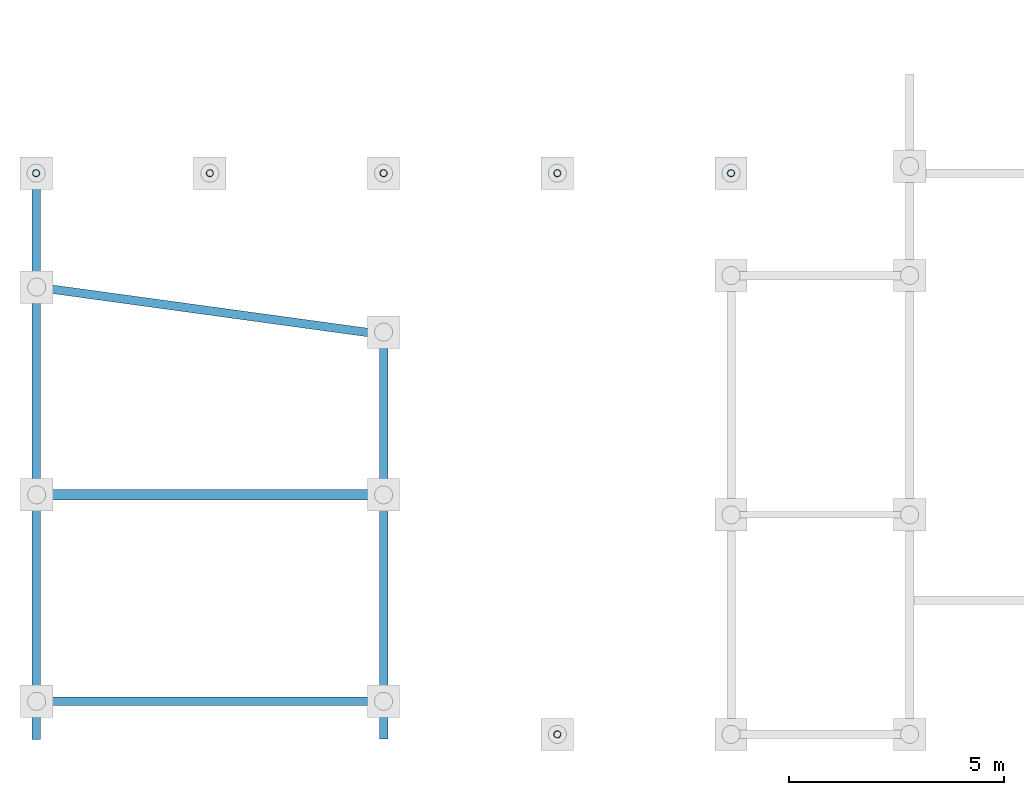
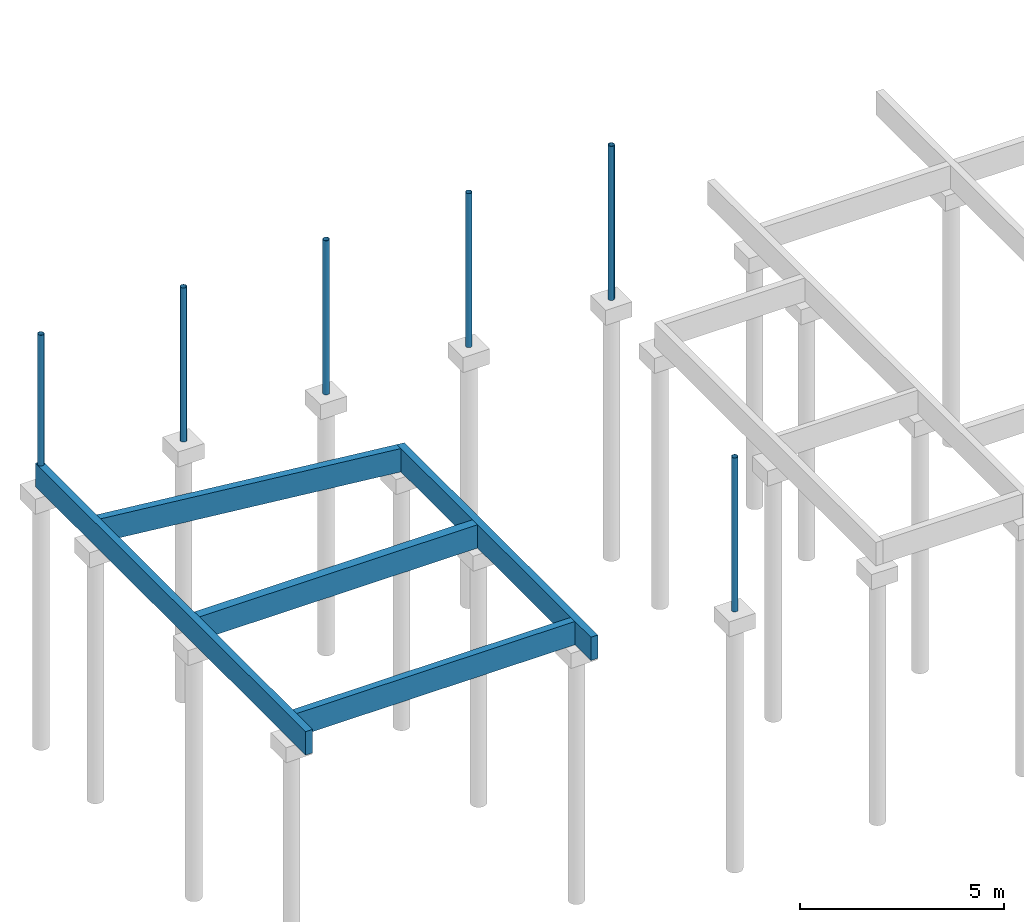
# One storey, part 1 of 3: 6 columns, 5 beams.
"""IFC2X3 building model written with IfcOpenShell, lengths in metres."""

from ifc_helpers import new_model, entity, si_unit, converted_unit, derived_unit, direction, frame, frame_2d, origin, origin_2d_with_axis, place, context, subcontext, project, spatial, rectangle, hollow_circle, extrude, clip, halfspace, source, transform, mapped, material, type_object, type_shapes, element, save


model = new_model("IFC2X3")

# Units and contexts
model_context = context("Model", 3, precision=1e-05, world=origin(), true_north=direction((6.12303176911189e-17, 1.0)))
body_context = subcontext(model_context, "Body", "Model", "MODEL_VIEW")
ifc_project = project(units=[si_unit("LENGTHUNIT", "METRE"), si_unit("AREAUNIT", "SQUARE_METRE"), si_unit("VOLUMEUNIT", "CUBIC_METRE"), converted_unit("PLANEANGLEUNIT", "DEGREE", entity("IfcRatioMeasure", 0.0174532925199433), si_unit("PLANEANGLEUNIT", "RADIAN"), dimensions=[0, 0, 0, 0, 0, 0, 0]), si_unit("MASSUNIT", "GRAM", prefix="KILO"), si_unit("TIMEUNIT", "SECOND"), si_unit("FREQUENCYUNIT", "HERTZ"), si_unit("THERMODYNAMICTEMPERATUREUNIT", "DEGREE_CELSIUS"), derived_unit("THERMALTRANSMITTANCEUNIT", [(si_unit("MASSUNIT", "GRAM", prefix="KILO"), 1), (si_unit("THERMODYNAMICTEMPERATUREUNIT", "KELVIN"), -1), (si_unit("TIMEUNIT", "SECOND"), -3)]), derived_unit("VOLUMETRICFLOWRATEUNIT", [(si_unit("LENGTHUNIT", "METRE"), 3), (si_unit("TIMEUNIT", "SECOND"), -1)]), si_unit("ELECTRICCURRENTUNIT", "AMPERE"), si_unit("ELECTRICVOLTAGEUNIT", "VOLT"), si_unit("POWERUNIT", "WATT"), si_unit("FORCEUNIT", "NEWTON", prefix="KILO"), si_unit("ILLUMINANCEUNIT", "LUX"), si_unit("LUMINOUSFLUXUNIT", "LUMEN"), si_unit("LUMINOUSINTENSITYUNIT", "CANDELA"), derived_unit("USERDEFINED", [(si_unit("MASSUNIT", "GRAM", prefix="KILO"), -1), (si_unit("LENGTHUNIT", "METRE"), -2), (si_unit("TIMEUNIT", "SECOND"), 3), (si_unit("LUMINOUSFLUXUNIT", "LUMEN"), 1)]), derived_unit("LINEARVELOCITYUNIT", [(si_unit("LENGTHUNIT", "METRE"), 1), (si_unit("TIMEUNIT", "SECOND"), -1)]), si_unit("PRESSUREUNIT", "PASCAL"), derived_unit("USERDEFINED", [(si_unit("LENGTHUNIT", "METRE"), -2), (si_unit("MASSUNIT", "GRAM", prefix="KILO"), 1), (si_unit("TIMEUNIT", "SECOND"), -2)])], contexts=[model_context])

# Site, building, storey
site_placement = place(None, origin())
site = spatial("IfcSite", under=ifc_project, at=site_placement, Name="Default", CompositionType="ELEMENT")
building_placement = place(site_placement, origin())
building = spatial("IfcBuilding", under=site, at=building_placement, CompositionType="ELEMENT")
storey_placement = place(building_placement, frame((0.0, 0.0, -0.77)))
storey = spatial("IfcBuildingStorey", under=building, at=storey_placement, Name="Fondation", CompositionType="ELEMENT", Elevation=-0.77)

# Columns
ifc_material_1 = material(Name="Acier structurel - S235")
column_type_1 = type_object("IfcColumnType", Name="RO168.3x8", PredefinedType="COLUMN", material=ifc_material_1)
shared_shape_1 = source(origin(), body_context, "Body", "SweptSolid", [
    extrude(hollow_circle(Radius=0.0841499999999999, WallThickness=0.00799999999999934, at=origin_2d_with_axis()), frame((0.0857375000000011, 0.0844590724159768, 0.0)), (0.0, 0.0, 1.0), 3.9133675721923),
])
type_shapes(column_type_1, [shared_shape_1])
column_1_placement = place(storey_placement, frame((-22.2712529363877, 9.44079089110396, 0.7)))
element("IfcColumn", 1, at=column_1_placement, inside=storey, type_object=column_type_1, material=ifc_material_1, Name="Poteau RO (EN 10219-2):RO168.3x8", ObjectType="RO168.3x8", context=body_context, shape_type="MappedRepresentation", body=[
    mapped(shared_shape_1, transform((0.0, 0.0, 0.0), scale=1.0)),
])
column_type_2 = type_object("IfcColumnType", Name="RO168.3x8", PredefinedType="COLUMN", material=ifc_material_1)
shared_shape_2 = source(origin(), body_context, "Body", "SweptSolid", [
    extrude(hollow_circle(Radius=0.0841499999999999, WallThickness=0.00799999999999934, at=origin_2d_with_axis()), frame((0.0857375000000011, 0.0844590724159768, 0.0)), (0.0, 0.0, 1.0), 4.6133675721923),
])
type_shapes(column_type_2, [shared_shape_2])
column_2_placement = place(storey_placement, frame((-18.2312529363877, 9.44079089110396, 0.0)))
element("IfcColumn", 2, at=column_2_placement, inside=storey, type_object=column_type_2, material=ifc_material_1, Name="Poteau RO (EN 10219-2):RO168.3x8", ObjectType="RO168.3x8", context=body_context, shape_type="MappedRepresentation", body=[
    mapped(shared_shape_2, transform((0.0, 0.0, 0.0), scale=1.0)),
])
column_type_3 = type_object("IfcColumnType", Name="RO168.3x8", PredefinedType="COLUMN", material=ifc_material_1)
shared_shape_3 = source(origin(), body_context, "Body", "SweptSolid", [
    extrude(hollow_circle(Radius=0.0841499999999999, WallThickness=0.00799999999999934, at=origin_2d_with_axis()), frame((0.0857375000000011, 0.0844590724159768, 0.0)), (0.0, 0.0, 1.0), 4.6133675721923),
])
type_shapes(column_type_3, [shared_shape_3])
column_3_placement = place(storey_placement, frame((-14.1912529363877, 9.44079089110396, 0.0)))
element("IfcColumn", 3, at=column_3_placement, inside=storey, type_object=column_type_3, material=ifc_material_1, Name="Poteau RO (EN 10219-2):RO168.3x8", ObjectType="RO168.3x8", context=body_context, shape_type="MappedRepresentation", body=[
    mapped(shared_shape_3, transform((0.0, 0.0, 0.0), scale=1.0)),
])
column_type_4 = type_object("IfcColumnType", Name="RO168.3x8", PredefinedType="COLUMN", material=ifc_material_1)
shared_shape_4 = source(origin(), body_context, "Body", "SweptSolid", [
    extrude(hollow_circle(Radius=0.0841499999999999, WallThickness=0.00799999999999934, at=origin_2d_with_axis()), frame((0.0857375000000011, 0.0844590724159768, 0.0)), (0.0, 0.0, 1.0), 4.6133675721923),
])
type_shapes(column_type_4, [shared_shape_4])
column_4_placement = place(storey_placement, frame((-10.1512529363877, 9.44079089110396, 0.0)))
element("IfcColumn", 4, at=column_4_placement, inside=storey, type_object=column_type_4, material=ifc_material_1, Name="Poteau RO (EN 10219-2):RO168.3x8", ObjectType="RO168.3x8", context=body_context, shape_type="MappedRepresentation", body=[
    mapped(shared_shape_4, transform((0.0, 0.0, 0.0), scale=1.0)),
])
column_type_5 = type_object("IfcColumnType", Name="RO168.3x8", PredefinedType="COLUMN", material=ifc_material_1)
shared_shape_5 = source(origin(), body_context, "Body", "SweptSolid", [
    extrude(hollow_circle(Radius=0.0841499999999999, WallThickness=0.00799999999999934, at=origin_2d_with_axis()), frame((0.0857375, 0.0844590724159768, 0.0)), (0.0, 0.0, 1.0), 4.6133675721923),
])
type_shapes(column_type_5, [shared_shape_5])
column_5_placement = place(storey_placement, frame((-6.11125293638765, 9.44079089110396, 0.0)))
element("IfcColumn", 5, at=column_5_placement, inside=storey, type_object=column_type_5, material=ifc_material_1, Name="Poteau RO (EN 10219-2):RO168.3x8", ObjectType="RO168.3x8", context=body_context, shape_type="MappedRepresentation", body=[
    mapped(shared_shape_5, transform((0.0, 0.0, 0.0), scale=1.0)),
])
column_type_6 = type_object("IfcColumnType", Name="RO168.3x8", PredefinedType="COLUMN", material=ifc_material_1)
shared_shape_6 = source(origin(), body_context, "Body", "SweptSolid", [
    extrude(hollow_circle(Radius=0.0841499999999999, WallThickness=0.00799999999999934, at=frame_2d((0.0, -5.41433564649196e-16), x_axis=(1.0, 0.0))), frame((0.0857375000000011, 0.0844590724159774, 0.0)), (0.0, 0.0, 1.0), 4.60651648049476),
])
type_shapes(column_type_6, [shared_shape_6])
column_6_placement = place(storey_placement, frame((-10.1512529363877, -3.60920935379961, 0.0)))
element("IfcColumn", 6, at=column_6_placement, inside=storey, type_object=column_type_6, material=ifc_material_1, Name="Poteau RO (EN 10219-2):RO168.3x8", ObjectType="RO168.3x8", context=body_context, shape_type="MappedRepresentation", body=[
    mapped(shared_shape_6, transform((0.0, 0.0, 0.0), scale=1.0)),
])

# Beams
ifc_material_2 = material(Name="Béton - Béton coulé sur place")
beam_1_placement = place(storey_placement, frame((-22.1855154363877, -3.62475031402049, 0.0), z_axis=(0.0, 0.0, 1.0), x_axis=(0.0, 1.0, 0.0)))
element("IfcBeam", 7, at=beam_1_placement, inside=storey, material=ifc_material_2, Name="Poutre rectangulaire - Béton:Longrine 0.20 x 0.7", ObjectType="Poutre rectangulaire - Béton:Longrine 0.20 x 0.7", context=body_context, shape_type="SweptSolid", body=[
    extrude(rectangle(XDim=0.7, YDim=0.199999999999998, at=origin_2d_with_axis()), frame((-0.0127000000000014, 0.0, 0.349999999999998), z_axis=(1.0, 0.0, 0.0), x_axis=(0.0, 0.0, -1.0)), (0.0, 0.0, 1.0), 13.2654),
])
beam_2_placement = place(storey_placement, frame((-14.1055154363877, 5.77117100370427, 0.0), z_axis=(0.0, 0.0, 1.0), x_axis=(0.0, -1.0, 0.0)))
element("IfcBeam", 8, at=beam_2_placement, inside=storey, material=ifc_material_2, Name="Poutre rectangulaire - Béton:Longrine 0.20 x 0.7", ObjectType="Poutre rectangulaire - Béton:Longrine 0.20 x 0.7", context=body_context, shape_type="Clipping", body=[
    clip(extrude(rectangle(XDim=0.7, YDim=0.2, at=frame_2d((0.0, -1.08246744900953e-15), x_axis=(1.0, 0.0))), frame((-0.114632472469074, 0.0, 0.349999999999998), z_axis=(1.0, 0.0, 0.0), x_axis=(0.0, 0.0, -1.0)), (0.0, 0.0, 1.0), 9.52279313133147), halfspace(frame((-0.117894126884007, -0.123810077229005, 0.699999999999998), z_axis=(-0.990747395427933, 0.135718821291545, 0.0), x_axis=(0.135718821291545, 0.990747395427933, 0.0)), False)),
])
beam_3_placement = place(storey_placement, frame((-14.1055154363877, -2.75475031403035, 0.0), z_axis=(0.0, 0.0, 1.0), x_axis=(-1.0, 0.0, 0.0)))
element("IfcBeam", 9, at=beam_3_placement, inside=storey, material=ifc_material_2, Name="Poutre rectangulaire - Béton:Longrine 0.20 x 0.7", ObjectType="Poutre rectangulaire - Béton:Longrine 0.20 x 0.7", context=body_context, shape_type="SweptSolid", body=[
    extrude(rectangle(XDim=0.7, YDim=0.199999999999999, at=frame_2d((0.0, 2.54449239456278e-14), x_axis=(1.0, 0.0))), frame((0.100000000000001, 0.0, 0.349999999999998), z_axis=(1.0, 0.0, 0.0), x_axis=(0.0, 0.0, -1.0)), (0.0, 0.0, 1.0), 7.88000000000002),
])
beam_4_placement = place(storey_placement, frame((-22.1855154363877, 6.87802025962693, 0.0), z_axis=(0.0, 0.0, 1.0), x_axis=(0.990747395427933, -0.135718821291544, 0.0)))
element("IfcBeam", 10, at=beam_4_placement, inside=storey, material=ifc_material_2, Name="Poutre rectangulaire - Béton:Longrine 0.20 x 0.7", ObjectType="Poutre rectangulaire - Béton:Longrine 0.20 x 0.7", context=body_context, shape_type="Clipping", body=[
    clip(clip(extrude(rectangle(XDim=0.7, YDim=0.200000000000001, at=frame_2d((0.0, -8.39606162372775e-16), x_axis=(1.0, 0.0))), frame((0.0872352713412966, 0.0, 0.349999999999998), z_axis=(1.0, 0.0, 0.0), x_axis=(0.0, 0.0, -1.0)), (0.0, 0.0, 1.0), 7.9809886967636), halfspace(frame((9.33324896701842, -9.33468249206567, 0.699999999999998), z_axis=(0.990747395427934, 0.135718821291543, 0.0), x_axis=(-0.135718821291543, 0.990747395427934, 0.0)), False)), halfspace(frame((-0.274142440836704, 2.73805729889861, 0.699999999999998), z_axis=(-0.990747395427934, -0.135718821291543, 0.0), x_axis=(0.135718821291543, -0.990747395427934, 0.0)), False)),
])
beam_5_placement = place(storey_placement, frame((-14.1055154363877, 2.04542227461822, 0.0), z_axis=(0.0, 0.0, 1.0), x_axis=(-1.0, 0.0, 0.0)))
element("IfcBeam", 11, at=beam_5_placement, inside=storey, material=ifc_material_2, Name="Poutre rectangulaire - Béton:Longrine 0.25 x 0.70", ObjectType="Poutre rectangulaire - Béton:Longrine 0.25 x 0.70", context=body_context, shape_type="SweptSolid", body=[
    extrude(rectangle(XDim=0.7, YDim=0.25, at=frame_2d((0.0, 2.54518628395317e-14), x_axis=(1.0, 0.0))), frame((0.0999999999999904, 0.0, 0.349999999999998), z_axis=(1.0, 0.0, 0.0), x_axis=(0.0, 0.0, -1.0)), (0.0, 0.0, 1.0), 7.88000000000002),
])

save(model, "model.ifc")
